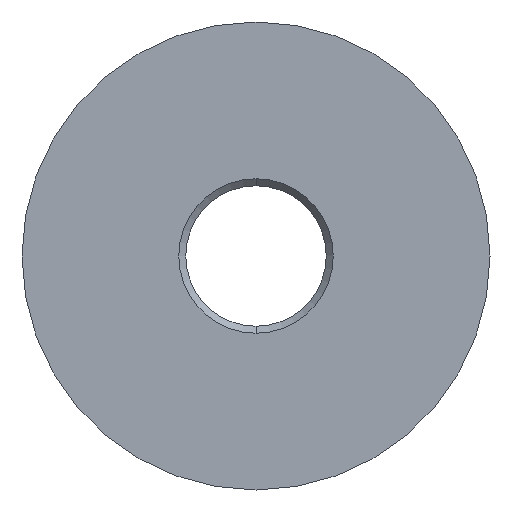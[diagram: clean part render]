
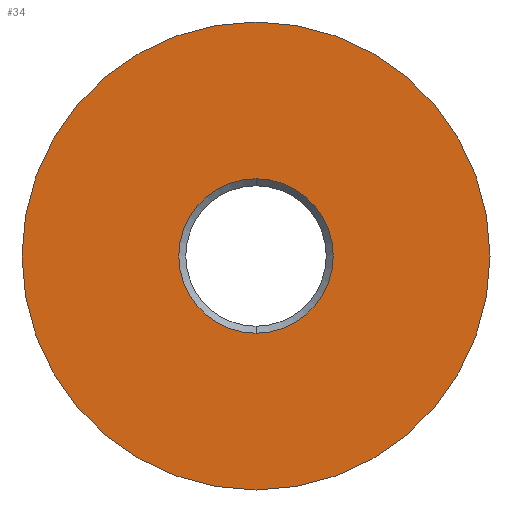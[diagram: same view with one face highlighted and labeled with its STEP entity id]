
A CAD part, front view. The second image highlights one B-rep face of the part: STEP entity #34.
In plain terms, the highlighted planar face has unit normal (0, -1, 0).
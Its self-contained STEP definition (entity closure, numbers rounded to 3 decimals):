
#25 = CIRCLE ( 'NONE', #40, 5. ) ;
#34 = ADVANCED_FACE ( 'NONE', ( #367, #255 ), #235, .F. ) ;
#40 = AXIS2_PLACEMENT_3D ( 'NONE', #352, #98, #160 ) ;
#51 = ORIENTED_EDGE ( 'NONE', *, *, #380, .F. ) ;
#69 = DIRECTION ( 'NONE',  ( 0., 1., 0. ) ) ;
#73 = CARTESIAN_POINT ( 'NONE',  ( 0., -3., -1.65 ) ) ;
#74 = AXIS2_PLACEMENT_3D ( 'NONE', #300, #69, #343 ) ;
#87 = CARTESIAN_POINT ( 'NONE',  ( 0., -3., 0. ) ) ;
#98 = DIRECTION ( 'NONE',  ( 0., -1., 0. ) ) ;
#150 = EDGE_CURVE ( 'NONE', #308, #378, #25, .T. ) ;
#153 = ORIENTED_EDGE ( 'NONE', *, *, #150, .T. ) ;
#160 = DIRECTION ( 'NONE',  ( 0., 0., -1. ) ) ;
#165 = EDGE_LOOP ( 'NONE', ( #268, #51 ) ) ;
#189 = CIRCLE ( 'NONE', #252, 5. ) ;
#209 = EDGE_LOOP ( 'NONE', ( #153, #335 ) ) ;
#213 = DIRECTION ( 'NONE',  ( 0., -1., 0. ) ) ;
#235 = PLANE ( 'NONE',  #74 ) ;
#242 = AXIS2_PLACEMENT_3D ( 'NONE', #271, #304, #307 ) ;
#252 = AXIS2_PLACEMENT_3D ( 'NONE', #341, #213, #386 ) ;
#255 = FACE_OUTER_BOUND ( 'NONE', #209, .T. ) ;
#263 = VERTEX_POINT ( 'NONE', #385 ) ;
#268 = ORIENTED_EDGE ( 'NONE', *, *, #314, .F. ) ;
#271 = CARTESIAN_POINT ( 'NONE',  ( 0., -3., 0. ) ) ;
#276 = CARTESIAN_POINT ( 'NONE',  ( 0., -3., -5. ) ) ;
#298 = DIRECTION ( 'NONE',  ( 0., -1., 0. ) ) ;
#300 = CARTESIAN_POINT ( 'NONE',  ( -1.65, -3., 0. ) ) ;
#304 = DIRECTION ( 'NONE',  ( 0., -1., 0. ) ) ;
#307 = DIRECTION ( 'NONE',  ( 0., 0., -1. ) ) ;
#308 = VERTEX_POINT ( 'NONE', #276 ) ;
#314 = EDGE_CURVE ( 'NONE', #366, #263, #369, .T. ) ;
#315 = DIRECTION ( 'NONE',  ( 0., 0., -1. ) ) ;
#328 = AXIS2_PLACEMENT_3D ( 'NONE', #87, #298, #315 ) ;
#335 = ORIENTED_EDGE ( 'NONE', *, *, #376, .T. ) ;
#336 = CIRCLE ( 'NONE', #242, 1.65 ) ;
#341 = CARTESIAN_POINT ( 'NONE',  ( 0., -3., 0. ) ) ;
#343 = DIRECTION ( 'NONE',  ( 0., 0., 1. ) ) ;
#352 = CARTESIAN_POINT ( 'NONE',  ( 0., -3., 0. ) ) ;
#359 = CARTESIAN_POINT ( 'NONE',  ( 0., -3., 5. ) ) ;
#366 = VERTEX_POINT ( 'NONE', #73 ) ;
#367 = FACE_BOUND ( 'NONE', #165, .T. ) ;
#369 = CIRCLE ( 'NONE', #328, 1.65 ) ;
#376 = EDGE_CURVE ( 'NONE', #378, #308, #189, .T. ) ;
#378 = VERTEX_POINT ( 'NONE', #359 ) ;
#380 = EDGE_CURVE ( 'NONE', #263, #366, #336, .T. ) ;
#385 = CARTESIAN_POINT ( 'NONE',  ( 0., -3., 1.65 ) ) ;
#386 = DIRECTION ( 'NONE',  ( 0., 0., -1. ) ) ;
